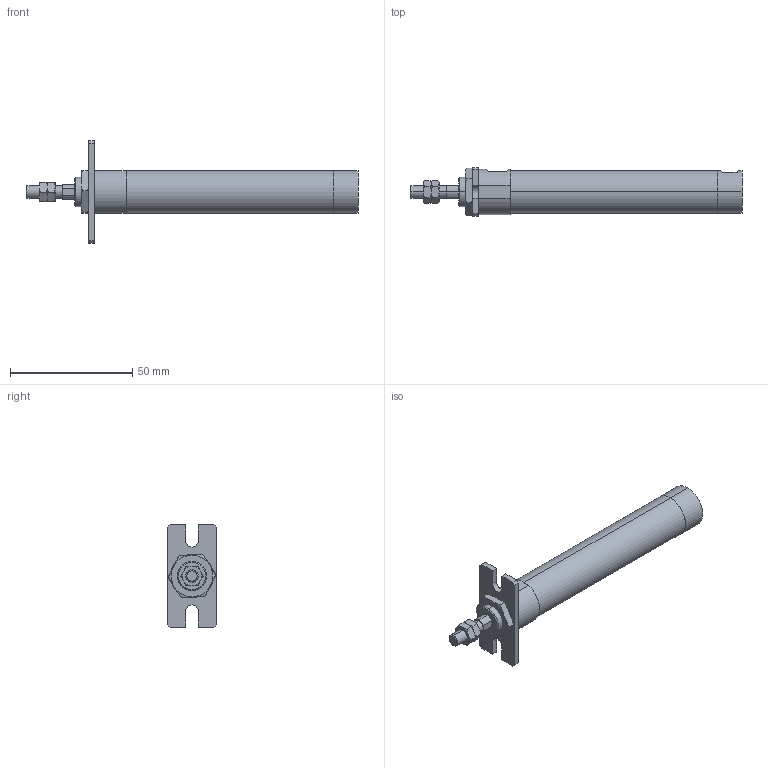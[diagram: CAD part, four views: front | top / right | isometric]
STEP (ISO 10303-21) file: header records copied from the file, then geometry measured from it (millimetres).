
FILE_DESCRIPTION (( 'STEP AP203' ), '1' );
FILE_NAME ('ZGU2-16-60-A.STEP', '2016-03-31T01:01:16', ( '' ), ( '' ), 'SwSTEP 2.0', 'SolidWorks 2014', '' );
FILE_SCHEMA (( 'CONFIG_CONTROL_DESIGN' ));
Length unit declared in the file: millimetre
Products named in the file (5): Z-16-A; ZGU2-16-60-A; ZGU2-16-60
Assembly tree (5 placements, depth 2):
  ZGU2-16-60-A
    ZGU2-16-60
    (unnamed)  x2
    (unnamed)
    Z-16-A
Bounding box: 136 x 20 x 42 mm (x, y, z)
Volume: 29005.2 mm3; surface area: 9804.5 mm2
Topology: 5 solids, 5 shells, 129 faces, 292 edges, 178 vertices
Faces by surface type: plane 57, torus 36, cylinder 28, cone 8
Entity records: 3825 total; most frequent: CARTESIAN_POINT 917, DIRECTION 498, ORIENTED_EDGE 480, EDGE_CURVE 240, AXIS2_PLACEMENT_3D 195, VERTEX_POINT 150, EDGE_LOOP 122, VECTOR 108
